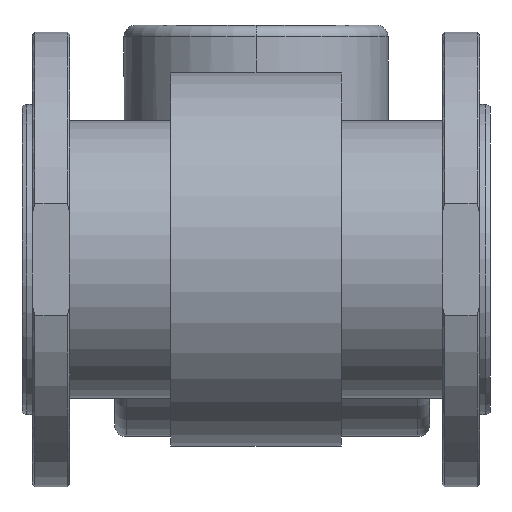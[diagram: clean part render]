
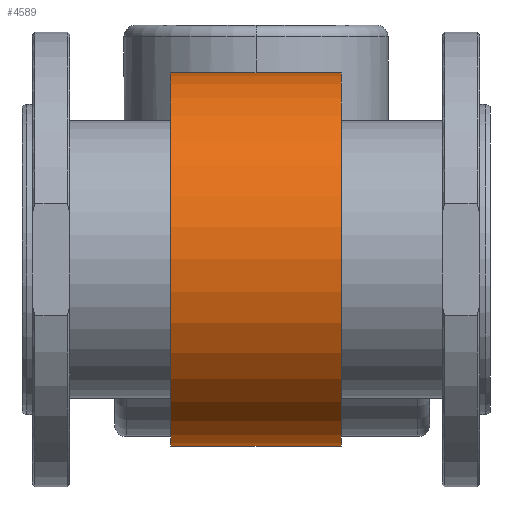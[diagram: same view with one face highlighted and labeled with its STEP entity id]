
A CAD part, front view. The second image highlights one B-rep face of the part: STEP entity #4589.
In plain terms, the highlighted cylindrical face has radius 80 mm (diameter 160 mm), a partial arc.
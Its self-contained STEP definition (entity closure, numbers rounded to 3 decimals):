
#86 = CIRCLE ( 'NONE', #10120, 80. ) ;
#316 = CARTESIAN_POINT ( 'NONE',  ( 36.5, 0., 0. ) ) ;
#353 = DIRECTION ( 'NONE',  ( 0., 0., 1. ) ) ;
#453 = CYLINDRICAL_SURFACE ( 'NONE', #5109, 80. ) ;
#568 = EDGE_CURVE ( 'NONE', #3119, #754, #5228, .T. ) ;
#607 = VERTEX_POINT ( 'NONE', #7424 ) ;
#754 = VERTEX_POINT ( 'NONE', #9475 ) ;
#846 = LINE ( 'NONE', #6083, #3969 ) ;
#1115 = CARTESIAN_POINT ( 'NONE',  ( 36.5, 0., 80. ) ) ;
#1632 = DIRECTION ( 'NONE',  ( 0., 0., 1. ) ) ;
#2841 = DIRECTION ( 'NONE',  ( -1., 0., 0. ) ) ;
#2917 = EDGE_CURVE ( 'NONE', #6342, #607, #846, .T. ) ;
#3119 = VERTEX_POINT ( 'NONE', #1115 ) ;
#3142 = DIRECTION ( 'NONE',  ( 0., 0., 1. ) ) ;
#3236 = CARTESIAN_POINT ( 'NONE',  ( 36.5, 0., -80. ) ) ;
#3256 = ORIENTED_EDGE ( 'NONE', *, *, #2917, .F. ) ;
#3815 = CIRCLE ( 'NONE', #9178, 80. ) ;
#3969 = VECTOR ( 'NONE', #2841, 1000. ) ;
#4079 = ORIENTED_EDGE ( 'NONE', *, *, #568, .T. ) ;
#4522 = EDGE_CURVE ( 'NONE', #6342, #3119, #3815, .T. ) ;
#4589 = ADVANCED_FACE ( 'NONE', ( #4822 ), #453, .T. ) ;
#4661 = EDGE_CURVE ( 'NONE', #607, #754, #86, .T. ) ;
#4709 = CARTESIAN_POINT ( 'NONE',  ( -119.607, 0., 0. ) ) ;
#4822 = FACE_OUTER_BOUND ( 'NONE', #6188, .T. ) ;
#4888 = CARTESIAN_POINT ( 'NONE',  ( -36.5, 0., 0. ) ) ;
#5109 = AXIS2_PLACEMENT_3D ( 'NONE', #4709, #7827, #3142 ) ;
#5228 = LINE ( 'NONE', #9586, #9211 ) ;
#5660 = DIRECTION ( 'NONE',  ( -1., 0., 0. ) ) ;
#6083 = CARTESIAN_POINT ( 'NONE',  ( -119.607, 0., -80. ) ) ;
#6188 = EDGE_LOOP ( 'NONE', ( #3256, #9357, #4079, #8092 ) ) ;
#6342 = VERTEX_POINT ( 'NONE', #3236 ) ;
#7424 = CARTESIAN_POINT ( 'NONE',  ( -36.5, 0., -80. ) ) ;
#7827 = DIRECTION ( 'NONE',  ( -1., 0., 0. ) ) ;
#8092 = ORIENTED_EDGE ( 'NONE', *, *, #4661, .F. ) ;
#8892 = DIRECTION ( 'NONE',  ( -1., 0., 0. ) ) ;
#9178 = AXIS2_PLACEMENT_3D ( 'NONE', #316, #9869, #353 ) ;
#9211 = VECTOR ( 'NONE', #8892, 1000. ) ;
#9357 = ORIENTED_EDGE ( 'NONE', *, *, #4522, .T. ) ;
#9475 = CARTESIAN_POINT ( 'NONE',  ( -36.5, 0., 80. ) ) ;
#9586 = CARTESIAN_POINT ( 'NONE',  ( -119.607, 0., 80. ) ) ;
#9869 = DIRECTION ( 'NONE',  ( -1., 0., 0. ) ) ;
#10120 = AXIS2_PLACEMENT_3D ( 'NONE', #4888, #5660, #1632 ) ;
